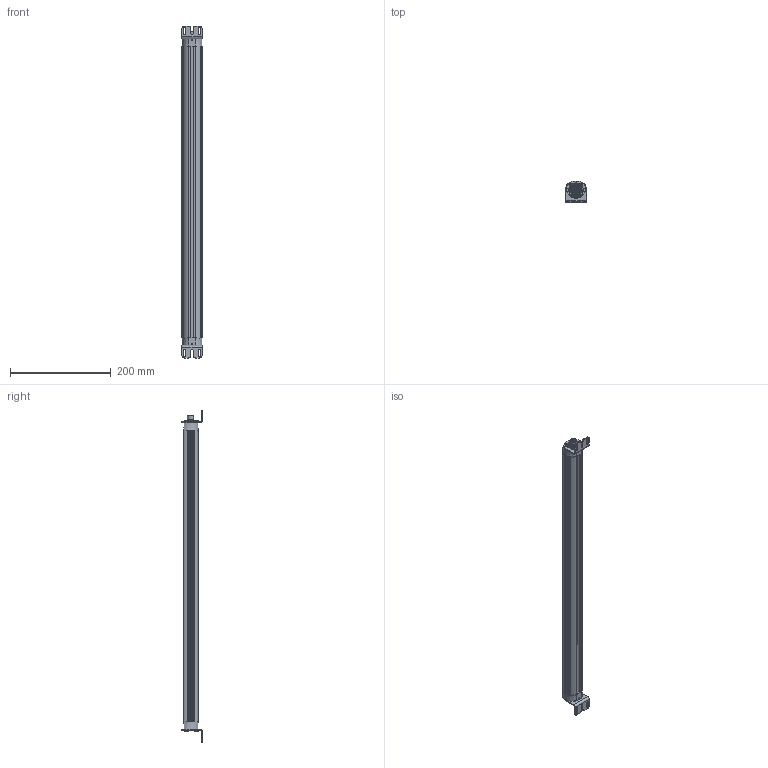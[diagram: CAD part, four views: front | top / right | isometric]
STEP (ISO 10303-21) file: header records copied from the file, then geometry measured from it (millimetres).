
FILE_DESCRIPTION(/* description */ (''),/* implementation_level */ '2;1');
FILE_NAME(/* name */ 'G:\Daten\Leuchten\07000 - LED LR40\03 - CAD\Step-Dateien_Gesamt_Website\LED LR40-RGBW\sangel-led-lr40-rgbw-610.stp',/* time_stamp */ '2023-08-14T13:21:58+02:00',/* author */ ('gzahn'),/* organization */ (''),/* preprocessor_version */ 'ST-DEVELOPER v19',/* originating_system */ 'Autodesk Inventor 2023',/* authorisation */ '');
FILE_SCHEMA (('AUTOMOTIVE_DESIGN { 1 0 10303 214 3 1 1 }'));
Length unit declared in the file: millimetre
Products named in the file (1): 1-000000-06973 - LED LR40-RGBW 610 PMMAd-M12-57_Vereinfachen_1
Bounding box: 40.02 x 42.02 x 660.32 mm (x, y, z)
Volume: 557948.4 mm3; surface area: 114160.5 mm2
Topology: 1 solids, 1 shells, 839 faces, 2358 edges, 1486 vertices
Faces by surface type: plane 350, cylinder 316, cone 117, bspline 30, torus 19, sphere 7
Full cylindrical faces by diameter (mm): 1 x5, 2.9 x8, 2.92 x12, 5.5 x8, 5.8 x8, 8 x6, 8.3 x1, 10.5 x1, 10.65 x1, 12 x1, 20 x2
Entity records: 31460 total; most frequent: CARTESIAN_POINT 8998, ORIENTED_EDGE 4690, DIRECTION 4481, EDGE_CURVE 2345, AXIS2_PLACEMENT_3D 1800, VERTEX_POINT 1486, CIRCLE 957, EDGE_LOOP 919
